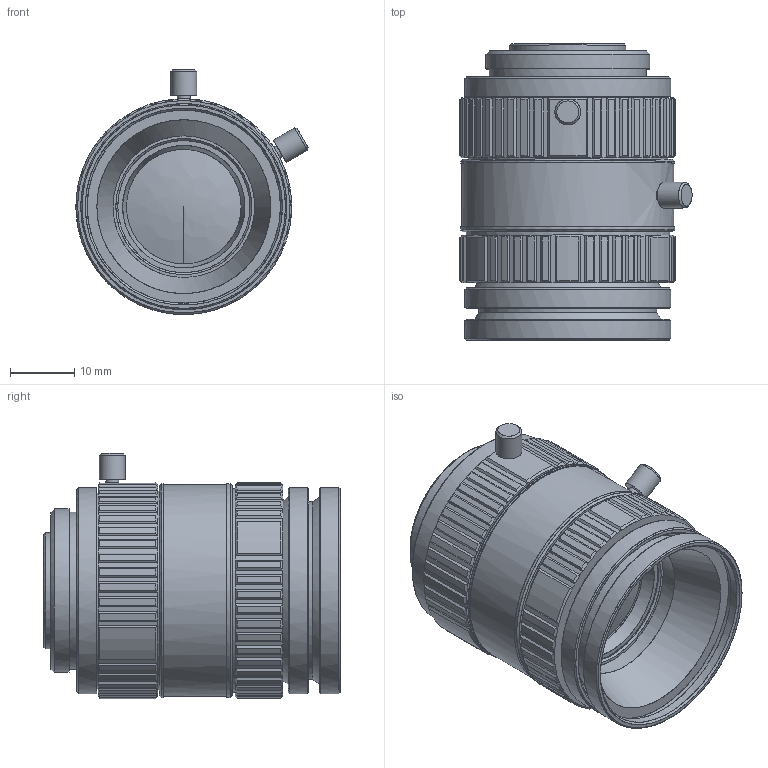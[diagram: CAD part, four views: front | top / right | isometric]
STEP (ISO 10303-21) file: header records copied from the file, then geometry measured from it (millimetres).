
FILE_DESCRIPTION(('LS-FFL-0253'),'2;1');
FILE_NAME('LS-FFL-0253.stp','2026-10-15T21:51:48',('LumaSpec Vision'),('LumaSpec Vision'),'LumaSpec Vision','LumaSpec Vision','');
FILE_SCHEMA(('AUTOMOTIVE_DESIGN { 1 0 10303 214 1 1 1 1 }'));
Length unit declared in the file: millimetre
Products named in the file (1076): LumaSpec Vision
Assembly tree (1075 placements, depth 3):
  LumaSpec Vision
    LumaSpec Vision
      LumaSpec Vision
      LumaSpec Vision
      LumaSpec Vision
      LumaSpec Vision
      LumaSpec Vision
      LumaSpec Vision
      LumaSpec Vision
      LumaSpec Vision
      LumaSpec Vision
      LumaSpec Vision
      LumaSpec Vision
      LumaSpec Vision
      LumaSpec Vision
      LumaSpec Vision
      LumaSpec Vision
      LumaSpec Vision
      LumaSpec Vision
      LumaSpec Vision
      LumaSpec Vision
      LumaSpec Vision
      LumaSpec Vision
      LumaSpec Vision
      LumaSpec Vision
      LumaSpec Vision
      LumaSpec Vision
      LumaSpec Vision
      LumaSpec Vision
      LumaSpec Vision
      LumaSpec Vision
      LumaSpec Vision
      LumaSpec Vision
      LumaSpec Vision
      LumaSpec Vision
      LumaSpec Vision
      LumaSpec Vision
      LumaSpec Vision
      LumaSpec Vision
      LumaSpec Vision
      LumaSpec Vision
      LumaSpec Vision
      LumaSpec Vision
      LumaSpec Vision
      LumaSpec Vision
      LumaSpec Vision
      LumaSpec Vision
      LumaSpec Vision
      LumaSpec Vision
      LumaSpec Vision
      LumaSpec Vision
      LumaSpec Vision
      LumaSpec Vision
      LumaSpec Vision
      LumaSpec Vision
      LumaSpec Vision
      LumaSpec Vision
      LumaSpec Vision
      LumaSpec Vision
      LumaSpec Vision
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Bounding box: 36.05 x 46 x 38.05 mm (x, y, z)
Surface area: 18713.2 mm2 (no closed solid volume)
Topology: 0 solids, 1073 shells, 1073 faces, 5080 edges, 5074 vertices
Faces by surface type: bspline 1073
Entity records: 111760 total; most frequent: CARTESIAN_POINT 49427, B_SPLINE_CURVE_WITH_KNOTS 7736, ORIENTED_EDGE 5078, EDGE_CURVE 5078, VERTEX_POINT 5078, SURFACE_CURVE 5078, PCURVE 5078, DEFINITIONAL_REPRESENTATION 5078
